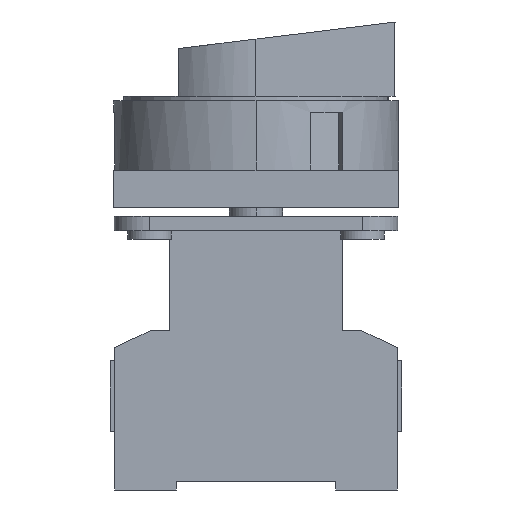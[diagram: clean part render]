
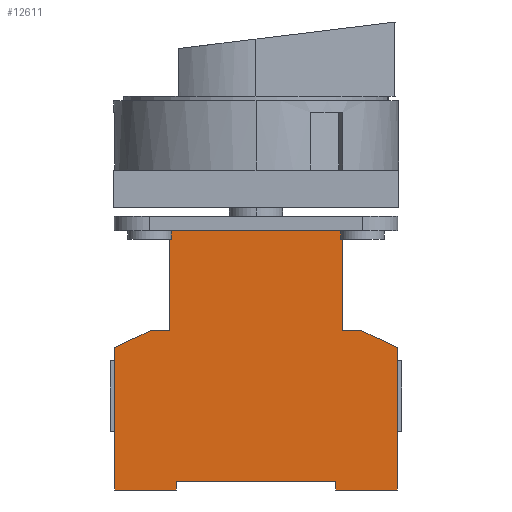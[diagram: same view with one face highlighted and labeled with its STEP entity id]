
A CAD part, left-side view. The second image highlights one B-rep face of the part: STEP entity #12611.
In plain terms, the highlighted planar face has unit normal (-1, 0, 0).
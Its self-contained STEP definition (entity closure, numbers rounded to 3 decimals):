
#15=DIRECTION('',(0.,-1.,0.));
#16=VECTOR('',#15,14.);
#17=CARTESIAN_POINT('',(-33.,32.,0.));
#18=LINE('',#17,#16);
#59=DIRECTION('',(0.,0.,1.));
#60=VECTOR('',#59,2.);
#61=CARTESIAN_POINT('',(-33.,18.,0.));
#62=LINE('',#61,#60);
#67=DIRECTION('',(0.,-1.,0.));
#68=VECTOR('',#67,0.341);
#69=CARTESIAN_POINT('',(-33.,19.5,56.7));
#70=LINE('',#69,#68);
#71=DIRECTION('',(0.,-1.,0.));
#72=VECTOR('',#71,38.318);
#73=CARTESIAN_POINT('',(-33.,19.159,58.7));
#74=LINE('',#73,#72);
#75=DIRECTION('',(0.,-1.,0.));
#76=VECTOR('',#75,0.341);
#77=CARTESIAN_POINT('',(-33.,-19.159,56.7));
#78=LINE('',#77,#76);
#79=DIRECTION('',(0.,-0.906,-0.423));
#80=VECTOR('',#79,8.873);
#81=CARTESIAN_POINT('',(-33.,-23.958,36.));
#82=LINE('',#81,#80);
#83=DIRECTION('',(0.,0.,1.));
#84=VECTOR('',#83,2.);
#85=CARTESIAN_POINT('',(-33.,-18.,0.));
#86=LINE('',#85,#84);
#87=DIRECTION('',(0.,0.,1.));
#88=VECTOR('',#87,32.25);
#89=CARTESIAN_POINT('',(-33.,32.,0.));
#90=LINE('',#89,#88);
#91=DIRECTION('',(0.,-0.906,0.423));
#92=VECTOR('',#91,8.873);
#93=CARTESIAN_POINT('',(-33.,32.,32.25));
#94=LINE('',#93,#92);
#95=DIRECTION('',(0.,0.,1.));
#96=VECTOR('',#95,20.7);
#97=CARTESIAN_POINT('',(-33.,19.5,36.));
#98=LINE('',#97,#96);
#256=DIRECTION('',(0.,0.,1.));
#257=VECTOR('',#256,20.7);
#258=CARTESIAN_POINT('',(-33.,-19.5,36.));
#259=LINE('',#258,#257);
#299=DIRECTION('',(0.,0.,1.));
#300=VECTOR('',#299,2.);
#301=CARTESIAN_POINT('',(-33.,-19.159,56.7));
#302=LINE('',#301,#300);
#8909=DIRECTION('',(0.,0.,-1.));
#8910=VECTOR('',#8909,2.);
#8911=CARTESIAN_POINT('',(-33.,19.159,58.7));
#8912=LINE('',#8911,#8910);
#8937=DIRECTION('',(0.,1.,0.));
#8938=VECTOR('',#8937,4.458);
#8939=CARTESIAN_POINT('',(-33.,-23.958,36.));
#8940=LINE('',#8939,#8938);
#8973=DIRECTION('',(0.,1.,0.));
#8974=VECTOR('',#8973,4.458);
#8975=CARTESIAN_POINT('',(-33.,19.5,36.));
#8976=LINE('',#8975,#8974);
#9073=DIRECTION('',(0.,-1.,0.));
#9074=VECTOR('',#9073,36.);
#9075=CARTESIAN_POINT('',(-33.,18.,2.));
#9076=LINE('',#9075,#9074);
#9089=DIRECTION('',(0.,-1.,0.));
#9090=VECTOR('',#9089,14.);
#9091=CARTESIAN_POINT('',(-33.,-18.,0.));
#9092=LINE('',#9091,#9090);
#9145=DIRECTION('',(0.,0.,1.));
#9146=VECTOR('',#9145,32.25);
#9147=CARTESIAN_POINT('',(-33.,-32.,0.));
#9148=LINE('',#9147,#9146);
#10657=CARTESIAN_POINT('',(-33.,18.,0.));
#10659=VERTEX_POINT('',#10657);
#10663=CARTESIAN_POINT('',(-33.,32.,0.));
#10664=VERTEX_POINT('',#10663);
#10665=CARTESIAN_POINT('',(-33.,18.,2.));
#10666=VERTEX_POINT('',#10665);
#10669=CARTESIAN_POINT('',(-33.,19.5,56.7));
#10670=CARTESIAN_POINT('',(-33.,19.159,56.7));
#10671=VERTEX_POINT('',#10669);
#10672=VERTEX_POINT('',#10670);
#10673=CARTESIAN_POINT('',(-33.,19.159,58.7));
#10674=VERTEX_POINT('',#10673);
#10675=CARTESIAN_POINT('',(-33.,-19.159,58.7));
#10676=VERTEX_POINT('',#10675);
#10677=CARTESIAN_POINT('',(-33.,-19.159,56.7));
#10678=VERTEX_POINT('',#10677);
#10679=CARTESIAN_POINT('',(-33.,-19.5,56.7));
#10680=VERTEX_POINT('',#10679);
#10681=CARTESIAN_POINT('',(-33.,-19.5,36.));
#10682=VERTEX_POINT('',#10681);
#10683=CARTESIAN_POINT('',(-33.,-23.958,36.));
#10684=VERTEX_POINT('',#10683);
#10685=CARTESIAN_POINT('',(-33.,-32.,32.25));
#10686=VERTEX_POINT('',#10685);
#10687=CARTESIAN_POINT('',(-33.,-32.,0.));
#10688=VERTEX_POINT('',#10687);
#10689=CARTESIAN_POINT('',(-33.,-18.,0.));
#10690=VERTEX_POINT('',#10689);
#10691=CARTESIAN_POINT('',(-33.,-18.,2.));
#10692=VERTEX_POINT('',#10691);
#10693=CARTESIAN_POINT('',(-33.,32.,32.25));
#10694=VERTEX_POINT('',#10693);
#10695=CARTESIAN_POINT('',(-33.,23.958,36.));
#10696=VERTEX_POINT('',#10695);
#10697=CARTESIAN_POINT('',(-33.,19.5,36.));
#10698=VERTEX_POINT('',#10697);
#12570=CARTESIAN_POINT('',(-33.,32.,0.));
#12571=DIRECTION('',(-1.,0.,0.));
#12572=DIRECTION('',(0.,-1.,0.));
#12573=AXIS2_PLACEMENT_3D('',#12570,#12571,#12572);
#12574=PLANE('',#12573);
#12576=ORIENTED_EDGE('',*,*,#12575,.T.);
#12578=ORIENTED_EDGE('',*,*,#12577,.F.);
#12580=ORIENTED_EDGE('',*,*,#12579,.T.);
#12582=ORIENTED_EDGE('',*,*,#12581,.F.);
#12584=ORIENTED_EDGE('',*,*,#12583,.T.);
#12586=ORIENTED_EDGE('',*,*,#12585,.F.);
#12588=ORIENTED_EDGE('',*,*,#12587,.F.);
#12590=ORIENTED_EDGE('',*,*,#12589,.T.);
#12592=ORIENTED_EDGE('',*,*,#12591,.F.);
#12594=ORIENTED_EDGE('',*,*,#12593,.F.);
#12596=ORIENTED_EDGE('',*,*,#12595,.T.);
#12598=ORIENTED_EDGE('',*,*,#12597,.F.);
#12599=ORIENTED_EDGE('',*,*,#12561,.F.);
#12600=ORIENTED_EDGE('',*,*,#12526,.F.);
#12602=ORIENTED_EDGE('',*,*,#12601,.T.);
#12604=ORIENTED_EDGE('',*,*,#12603,.T.);
#12606=ORIENTED_EDGE('',*,*,#12605,.F.);
#12608=ORIENTED_EDGE('',*,*,#12607,.T.);
#12609=EDGE_LOOP('',(#12576,#12578,#12580,#12582,#12584,#12586,#12588,#12590,
#12592,#12594,#12596,#12598,#12599,#12600,#12602,#12604,#12606,#12608));
#12610=FACE_OUTER_BOUND('',#12609,.F.);
#12611=ADVANCED_FACE('',(#12610),#12574,.T.);
#12526=EDGE_CURVE('',#10664,#10659,#18,.T.);
#12561=EDGE_CURVE('',#10659,#10666,#62,.T.);
#12575=EDGE_CURVE('',#10671,#10672,#70,.T.);
#12577=EDGE_CURVE('',#10674,#10672,#8912,.T.);
#12579=EDGE_CURVE('',#10674,#10676,#74,.T.);
#12581=EDGE_CURVE('',#10678,#10676,#302,.T.);
#12583=EDGE_CURVE('',#10678,#10680,#78,.T.);
#12585=EDGE_CURVE('',#10682,#10680,#259,.T.);
#12587=EDGE_CURVE('',#10684,#10682,#8940,.T.);
#12589=EDGE_CURVE('',#10684,#10686,#82,.T.);
#12591=EDGE_CURVE('',#10688,#10686,#9148,.T.);
#12593=EDGE_CURVE('',#10690,#10688,#9092,.T.);
#12595=EDGE_CURVE('',#10690,#10692,#86,.T.);
#12597=EDGE_CURVE('',#10666,#10692,#9076,.T.);
#12601=EDGE_CURVE('',#10664,#10694,#90,.T.);
#12603=EDGE_CURVE('',#10694,#10696,#94,.T.);
#12605=EDGE_CURVE('',#10698,#10696,#8976,.T.);
#12607=EDGE_CURVE('',#10698,#10671,#98,.T.);
